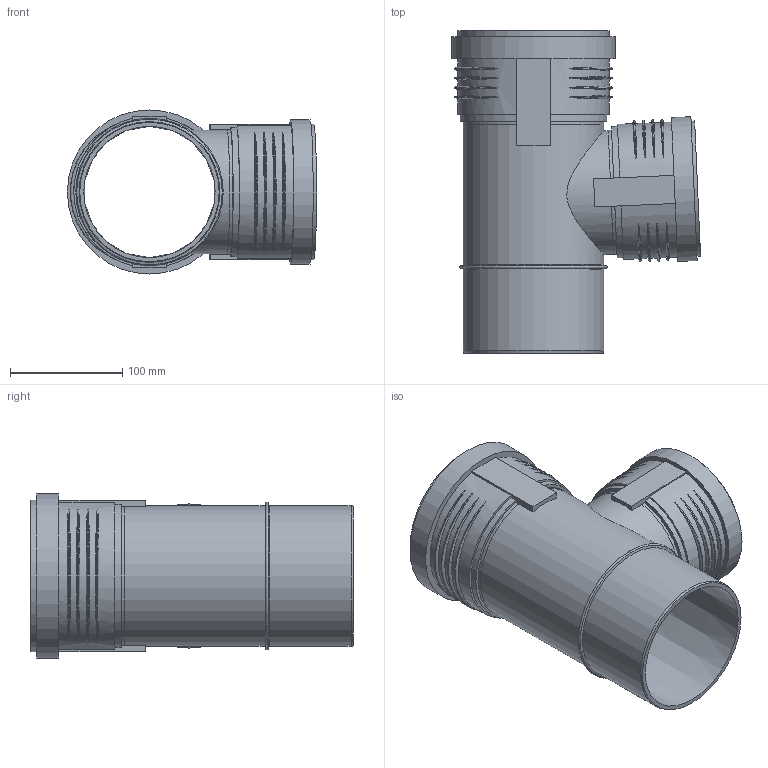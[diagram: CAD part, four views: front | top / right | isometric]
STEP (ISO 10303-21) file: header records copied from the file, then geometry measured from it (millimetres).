
FILE_DESCRIPTION(/* description */ (''),/* implementation_level */ '2;1');
FILE_NAME(/* name */ 'Z:\Geberit\Export\NewStep\390651.stp',/* time_stamp */ '2014-04-02T08:16:05+02:00',/* author */ ('ML'),/* organization */ (''),/* preprocessor_version */ 'ST-DEVELOPER v15.2',/* originating_system */ 'Autodesk Inventor 2014',/* authorisation */ '');
FILE_SCHEMA (('AUTOMOTIVE_DESIGN { 1 0 10303 214 3 1 1 }'));
Length unit declared in the file: millimetre
Products named in the file (4): 861612; 861404; 861625; 390651
Bounding box: 221.56 x 286.9 x 145.9 mm (x, y, z)
Volume: 629124.7 mm3; surface area: 326738.2 mm2
Topology: 3 solids, 3 shells, 123 faces, 302 edges, 211 vertices
Faces by surface type: torus 50, plane 37, cylinder 30, cone 6
Full cylindrical faces by diameter (mm): 103 x1, 103.2 x1, 110.2 x2, 113.3 x2, 117 x1, 120.3 x1, 121.1 x1, 125.2 x3, 126.4 x2, 128.1 x1, 134.6 x1, 137.7 x1, 145.9 x1
Entity records: 5123 total; most frequent: CARTESIAN_POINT 2232, ORIENTED_EDGE 532, DIRECTION 524, EDGE_CURVE 266, AXIS2_PLACEMENT_3D 226, VERTEX_POINT 202, EDGE_LOOP 184, STYLED_ITEM 124
